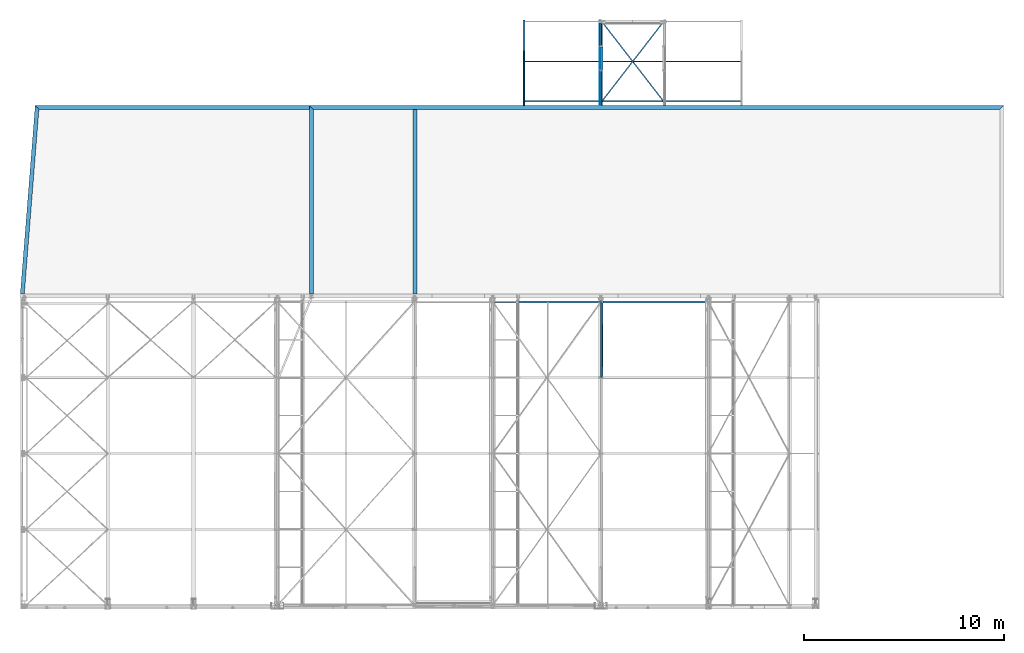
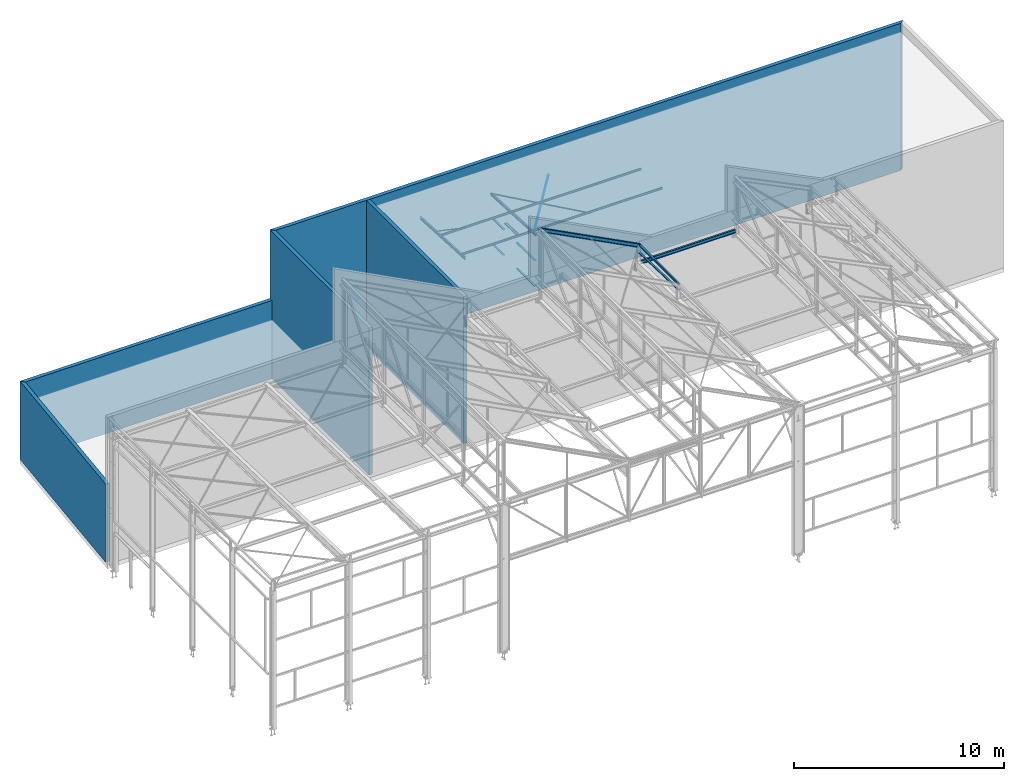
# One storey, part 34 of 123: 20 beams, 2 members, 22 elements without a shape of their own.
"""IFC2X3 building model written with IfcOpenShell, lengths in millimetres."""

import ifcopenshell
import ifcopenshell.guid

model = None  # the IFC model being written
_history = None  # IfcOwnerHistory: only IFC2X3 demands one
_inside = {}  # id of a spatial element -> (the spatial element, [elements in it])
_under = {}  # id of a project, library or spatial element -> (it, [spatial elements below it])
_declared = {}  # id of a project -> (the project, [libraries it declares])
_typed = {}  # id of a type object -> (the type object, [elements of that type])
_made_of = {}  # id of a material, layer set ... -> (it, [elements and type objects made of it])


def new_model(schema):
    """Start an empty IFC model of exactly this schema.

    Asked for "IFC4X3", IfcOpenShell would pick the latest addendum, in which some entities
    have other attributes; the version numbers below select the first issue.
    IFC2X3 requires an IfcOwnerHistory on every rooted entity: one is made here for all.
    """
    global model, _history
    if schema == "IFC4X3":
        model = ifcopenshell.file(schema_version=(4, 3, 0, 0))
    else:
        model = ifcopenshell.file(schema=schema)
    _inside.clear()
    _under.clear()
    _declared.clear()
    _typed.clear()
    _made_of.clear()
    _history = None
    if model.schema == "IFC2X3":
        org = make("IfcOrganization", Name="unknown")
        user = make(
            "IfcPersonAndOrganization",
            ThePerson=make("IfcPerson", FamilyName="unknown"),
            TheOrganization=org,
        )
        app = make(
            "IfcApplication",
            ApplicationDeveloper=org,
            Version="unknown",
            ApplicationFullName="unknown",
            ApplicationIdentifier="unknown",
        )
        _history = make(
            "IfcOwnerHistory",
            OwningUser=user,
            OwningApplication=app,
            ChangeAction="ADDED",
            CreationDate=0,
        )
    return model


def make(cls, **values):
    """One entity of the class cls with the attributes given. An attribute that is None is left unset."""
    return model.create_entity(
        cls, **{name: value for name, value in values.items() if value is not None}
    )


def rooted(cls, **values):
    """An entity with a GlobalId (a new one), such as an element, a storey or a relation."""
    return make(cls, GlobalId=ifcopenshell.guid.new(), OwnerHistory=_history, **values)


def si_unit(unit_type, name, prefix=None):
    """IfcSIUnit, for example si_unit("LENGTHUNIT", "METRE", prefix="MILLI")."""
    return make("IfcSIUnit", UnitType=unit_type, Prefix=prefix, Name=name)


def assignment(units):
    """IfcUnitAssignment: the units of a project."""
    return None if units is None else make("IfcUnitAssignment", Units=units)


def point(xyz):
    """IfcCartesianPoint."""
    return None if xyz is None else make("IfcCartesianPoint", Coordinates=xyz)


def direction(xyz):
    """IfcDirection."""
    return None if xyz is None else make("IfcDirection", DirectionRatios=xyz)


def frame(location, z_axis=None, x_axis=None):
    """IfcAxis2Placement3D, a coordinate frame: its origin and axes. An axis left out is left unset."""
    return make(
        "IfcAxis2Placement3D",
        Location=point(location),
        Axis=direction(z_axis),
        RefDirection=direction(x_axis),
    )


def frame_2d(location, x_axis=None):
    """IfcAxis2Placement2D, a coordinate frame in the plane: its origin and x axis."""
    return make(
        "IfcAxis2Placement2D", Location=point(location), RefDirection=direction(x_axis)
    )


def origin_with_axes():
    """The frame at (0, 0, 0) with the z axis (0, 0, 1) and the x axis (1, 0, 0) written out."""
    return frame((0.0, 0.0, 0.0), z_axis=(0.0, 0.0, 1.0), x_axis=(1.0, 0.0, 0.0))


def origin_2d_with_axis():
    """The frame at (0, 0) in the plane with the x axis (1, 0) written out."""
    return frame_2d((0.0, 0.0), x_axis=(1.0, 0.0))


def place(relative_to, where):
    """IfcLocalPlacement: puts the frame where relative to a parent placement (None: the world)."""
    return make(
        "IfcLocalPlacement", PlacementRelTo=relative_to, RelativePlacement=where
    )


def context(
    kind, dimensions, precision=None, world=None, true_north=None, identifier=None
):
    """IfcGeometricRepresentationContext, for example the 3D "Model" context."""
    return make(
        "IfcGeometricRepresentationContext",
        ContextIdentifier=identifier,
        ContextType=kind,
        CoordinateSpaceDimension=dimensions,
        Precision=precision,
        WorldCoordinateSystem=world,
        TrueNorth=true_north,
    )


def subcontext(parent, identifier, kind, view, scale=None):
    """IfcGeometricRepresentationSubContext, for example "Body" below "Model"."""
    return make(
        "IfcGeometricRepresentationSubContext",
        ContextIdentifier=identifier,
        ContextType=kind,
        ParentContext=parent,
        TargetScale=scale,
        TargetView=view,
    )


def project(units=None, contexts=None):
    """IfcProject with its units and contexts."""
    return rooted(
        "IfcProject",
        Name="project",
        RepresentationContexts=contexts,
        UnitsInContext=assignment(units),
    )


def spatial(cls, under=None, at=None, **own):
    """A site, building, storey or space (cls), placed at a placement, below another one or the project."""
    s = rooted(cls, ObjectPlacement=at, **own)
    if under is not None:
        _under.setdefault(under.id(), (under, []))[1].append(s)
    return s


def profile(cls, at=None, kind="AREA", **sizes):
    """A parametric profile (cls). Its sizes go by their IFC names, for example OverallWidth=200.0."""
    return make(cls, ProfileType=kind, Position=at, **sizes)


def rectangle(**sizes):
    """IfcRectangleProfileDef."""
    return profile("IfcRectangleProfileDef", **sizes)


def hollow_rectangle(**sizes):
    """IfcRectangleHollowProfileDef."""
    return profile("IfcRectangleHollowProfileDef", **sizes)


def hollow_circle(**sizes):
    """IfcCircleHollowProfileDef."""
    return profile("IfcCircleHollowProfileDef", **sizes)


def i_section(**sizes):
    """IfcIShapeProfileDef."""
    return profile("IfcIShapeProfileDef", **sizes)


def l_section(**sizes):
    """IfcLShapeProfileDef."""
    return profile("IfcLShapeProfileDef", **sizes)


def u_section(**sizes):
    """IfcUShapeProfileDef."""
    return profile("IfcUShapeProfileDef", **sizes)


def extrude(swept, where, along, depth):
    """IfcExtrudedAreaSolid: the profile swept, set in the frame where, extruded along a direction by depth."""
    return make(
        "IfcExtrudedAreaSolid",
        SweptArea=swept,
        Position=where,
        ExtrudedDirection=direction(along),
        Depth=depth,
    )


def clip(a, b, op="DIFFERENCE"):
    """IfcBooleanClippingResult: the solid a cut by the half space b."""
    return make(
        "IfcBooleanClippingResult", Operator=op, FirstOperand=a, SecondOperand=b
    )


def halfspace(plane, agree):
    """IfcHalfSpaceSolid: all space on one side of the plane z = 0 of the frame plane."""
    return make(
        "IfcHalfSpaceSolid",
        BaseSurface=make("IfcPlane", Position=plane),
        AgreementFlag=agree,
    )


def shape(context_of_items, identifier, shape_type, items):
    """IfcShapeRepresentation: the items that make up one representation, for example the "Body"."""
    return make(
        "IfcShapeRepresentation",
        ContextOfItems=context_of_items,
        RepresentationIdentifier=identifier,
        RepresentationType=shape_type,
        Items=items,
    )


def material(Name=None, Category=None):
    """IfcMaterial."""
    return make("IfcMaterial", Name=Name, Category=Category)


def made_of(thing, what):
    """Note that an element or type object is made of a material, layer set ...; save() writes the relation."""
    if what is not None:
        _made_of.setdefault(what.id(), (what, []))[1].append(thing)
    return thing


def type_object(cls, material=None, **own):
    """A type object (cls), such as IfcWallType, which elements share."""
    return made_of(rooted(cls, **own), material)


def element(
    cls,
    number,
    at=None,
    inside=None,
    cuts=None,
    type_object=None,
    material=None,
    context=None,
    identifier="Body",
    shape_type=None,
    held_by="IfcProductDefinitionShape",
    body=None,
    shapes=None,
    **own,
):
    """One element of the class cls, such as IfcWall. Its Tag is "e" and its number.

    at: its placement. inside: the storey or other place that contains it. cuts: it is an
    opening in that element (IfcRelVoidsElement). A single representation is given by context,
    identifier, shape_type and body (its items); several are given by shapes. held_by: the class
    of the entity that holds the representations. save() writes the other relations.
    """
    e = rooted(cls, Tag="e%d" % number, ObjectPlacement=at, **own)
    if body is not None:
        shapes = [shape(context, identifier, shape_type, body)]
    if shapes is not None:
        e.Representation = make(held_by, Representations=shapes)
    if inside is not None:
        _inside.setdefault(inside.id(), (inside, []))[1].append(e)
    if cuts is not None:
        rooted(
            "IfcRelVoidsElement", RelatingBuildingElement=cuts, RelatedOpeningElement=e
        )
    if type_object is not None:
        _typed.setdefault(type_object.id(), (type_object, []))[1].append(e)
    return made_of(e, material)


def aggregate(whole, parts):
    """IfcRelAggregates: a whole, such as a stair, and the parts it consists of."""
    return rooted("IfcRelAggregates", RelatingObject=whole, RelatedObjects=parts)


def save(model, path):
    """Write the relations noted so far, then the file.

    IfcRelAggregates (storeys below a building ...), IfcRelContainedInSpatialStructure (elements
    in a storey), IfcRelDefinesByType, IfcRelAssociatesMaterial and IfcRelDeclares: one each for
    every whole, place, type object, material and project.
    """
    for whole, parts in _under.values():
        aggregate(whole, parts)
    for where, things in _inside.values():
        rooted(
            "IfcRelContainedInSpatialStructure",
            RelatedElements=things,
            RelatingStructure=where,
        )
    for kind, things in _typed.values():
        rooted("IfcRelDefinesByType", RelatedObjects=things, RelatingType=kind)
    for what, things in _made_of.values():
        rooted("IfcRelAssociatesMaterial", RelatedObjects=things, RelatingMaterial=what)
    for by, libraries in _declared.values():
        rooted("IfcRelDeclares", RelatingContext=by, RelatedDefinitions=libraries)
    model.write(path)


model = new_model("IFC2X3")

# Units and contexts
model_context = context("Model", 3, precision=1e-05, world=origin_with_axes())
body_context = subcontext(model_context, "Body", "Model", "MODEL_VIEW")
ifc_project = project(units=[si_unit("LENGTHUNIT", "METRE", prefix="MILLI"), si_unit("AREAUNIT", "SQUARE_METRE"), si_unit("VOLUMEUNIT", "CUBIC_METRE"), si_unit("MASSUNIT", "GRAM", prefix="KILO"), si_unit("TIMEUNIT", "SECOND"), si_unit("PLANEANGLEUNIT", "RADIAN"), si_unit("SOLIDANGLEUNIT", "STERADIAN"), si_unit("THERMODYNAMICTEMPERATUREUNIT", "DEGREE_CELSIUS"), si_unit("LUMINOUSINTENSITYUNIT", "LUMEN")], contexts=[model_context])

# Site, building, storey
site_placement = place(None, origin_with_axes())
site = spatial("IfcSite", under=ifc_project, at=site_placement, Name="Undefined", CompositionType="ELEMENT")
building_placement = place(site_placement, origin_with_axes())
building = spatial("IfcBuilding", under=site, at=building_placement, Name="Undefined", CompositionType="ELEMENT")
storey_placement = place(building_placement, origin_with_axes())
storey = spatial("IfcBuildingStorey", under=building, at=storey_placement, Name="Undefined", CompositionType="ELEMENT", Elevation=0.0)

# Assembly, beam
assembly_1_placement = place(storey_placement, origin_with_axes())
assembly_1 = element("IfcElementAssembly", 1, at=assembly_1_placement, inside=storey, Name="Steel Assembly", AssemblyPlace="NOTDEFINED", PredefinedType="RIGID_FRAME")
ifc_material_1 = material(Name="STEEL/S235-E24")
beam_type_1 = type_object("IfcBeamType", Name="UPF-100*50*4", PredefinedType="NOTDEFINED")
beam_1_placement = place(assembly_1_placement, frame((28930.0000000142, 11400.0, 8171.98873515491), z_axis=(1.0, 0.0, 0.0), x_axis=(0.0, 0.999506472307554, -0.0314135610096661)))
beam_1 = element("IfcBeam", 2, at=beam_1_placement, type_object=beam_type_1, material=ifc_material_1, Name="LISSE CONTREBARDAGE", ObjectType="UPF-100*50*4", context=body_context, shape_type="Clipping", body=[
    clip(extrude(u_section(Depth=100.0, FlangeWidth=50.0, WebThickness=4.0, FlangeThickness=4.0, at=origin_2d_with_axis()), frame((3991.97014790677, 0.0, 0.0), z_axis=(-1.0, 0.0, 0.0), x_axis=(0.0, -1.0, 0.0)), (0.0, 0.0, 1.0), 3992.0), halfspace(frame((3962.74106203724, -25.0, -50.0), z_axis=(0.999506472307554, 0.0314135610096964, 0.0), x_axis=(0.0, 0.0, 1.0)), False)),
])
aggregate(assembly_1, [beam_1])

assembly_2_placement = place(storey_placement, origin_with_axes())
assembly_2 = element("IfcElementAssembly", 3, at=assembly_2_placement, inside=storey, Name="Steel Assembly", AssemblyPlace="NOTDEFINED", PredefinedType="RIGID_FRAME")
beam_2_placement = place(assembly_2_placement, frame((28890.0000311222, 29160.0000217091, 1625.0), z_axis=(-1.0, 0.0, 0.0), x_axis=(0.0, -1.0, 0.0)))
beam_2 = element("IfcBeam", 4, at=beam_2_placement, type_object=beam_type_1, material=ifc_material_1, Name="LISSE", ObjectType="UPF-100*50*4", context=body_context, shape_type="SweptSolid", body=[
    extrude(u_section(Depth=100.0, FlangeWidth=50.0, WebThickness=4.0, FlangeThickness=4.0, at=origin_2d_with_axis()), frame((1140.00004341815, 0.0, 0.0), z_axis=(-1.0, 0.0, 0.0), x_axis=(0.0, -1.0, 0.0)), (0.0, 0.0, 1.0), 1140.0),
])
aggregate(assembly_2, [beam_2])

assembly_3_placement = place(storey_placement, origin_with_axes())
assembly_3 = element("IfcElementAssembly", 5, at=assembly_3_placement, inside=storey, Name="Steel Assembly", AssemblyPlace="NOTDEFINED", PredefinedType="RIGID_FRAME")
beam_3_placement = place(assembly_3_placement, frame((28890.0000311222, 26790.0000217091, 1625.0), z_axis=(-1.0, 0.0, 0.0), x_axis=(0.0, -1.0, 0.0)))
beam_3 = element("IfcBeam", 6, at=beam_3_placement, type_object=beam_type_1, material=ifc_material_1, Name="LISSE", ObjectType="UPF-100*50*4", context=body_context, shape_type="SweptSolid", body=[
    extrude(u_section(Depth=100.0, FlangeWidth=50.0, WebThickness=4.0, FlangeThickness=4.0, at=origin_2d_with_axis()), frame((1750.00002170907, 0.0, 0.0), z_axis=(-1.0, 0.0, 0.0), x_axis=(0.0, -1.0, 0.0)), (0.0, 0.0, 1.0), 1750.0),
])
aggregate(assembly_3, [beam_3])

assembly_4_placement = place(storey_placement, origin_with_axes())
assembly_4 = element("IfcElementAssembly", 7, at=assembly_4_placement, inside=storey, Name="Steel Assembly", AssemblyPlace="NOTDEFINED", PredefinedType="RIGID_FRAME")
beam_4_placement = place(assembly_4_placement, frame((28890.0000311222, 29160.0000217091, 124.999999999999), z_axis=(-1.0, 0.0, 0.0), x_axis=(0.0, -1.0, 0.0)))
beam_4 = element("IfcBeam", 8, at=beam_4_placement, type_object=beam_type_1, material=ifc_material_1, Name="LISSE", ObjectType="UPF-100*50*4", context=body_context, shape_type="SweptSolid", body=[
    extrude(u_section(Depth=100.0, FlangeWidth=50.0, WebThickness=4.0, FlangeThickness=4.0, at=origin_2d_with_axis()), frame((1140.00004341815, 0.0, 0.0), z_axis=(-1.0, 0.0, 0.0), x_axis=(0.0, -1.0, 0.0)), (0.0, 0.0, 1.0), 1140.0),
])
aggregate(assembly_4, [beam_4])

assembly_5_placement = place(storey_placement, origin_with_axes())
assembly_5 = element("IfcElementAssembly", 9, at=assembly_5_placement, inside=storey, Name="Steel Assembly", AssemblyPlace="NOTDEFINED", PredefinedType="RIGID_FRAME")
beam_5_placement = place(assembly_5_placement, frame((28890.0000311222, 26790.0000217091, 124.999999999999), z_axis=(-1.0, 0.0, 0.0), x_axis=(0.0, -1.0, 0.0)))
beam_5 = element("IfcBeam", 10, at=beam_5_placement, type_object=beam_type_1, material=ifc_material_1, Name="LISSE", ObjectType="UPF-100*50*4", context=body_context, shape_type="SweptSolid", body=[
    extrude(u_section(Depth=100.0, FlangeWidth=50.0, WebThickness=4.0, FlangeThickness=4.0, at=origin_2d_with_axis()), frame((1750.00002170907, 0.0, 0.0), z_axis=(-1.0, 0.0, 0.0), x_axis=(0.0, -1.0, 0.0)), (0.0, 0.0, 1.0), 1750.0),
])
aggregate(assembly_5, [beam_5])

assembly_6_placement = place(storey_placement, origin_with_axes())
assembly_6 = element("IfcElementAssembly", 11, at=assembly_6_placement, inside=storey, Name="Steel Assembly", AssemblyPlace="NOTDEFINED", PredefinedType="RIGID_FRAME")
beam_type_2 = type_object("IfcBeamType", Name="TUBE-C-100*100*4", PredefinedType="NOTDEFINED")
beam_6_placement = place(assembly_6_placement, frame((28929.9999999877, 11455.0, 8500.0), z_axis=(0.0, 0.0, 1.0), x_axis=(0.0, 1.0, 0.0)))
beam_6 = element("IfcBeam", 12, at=beam_6_placement, type_object=beam_type_2, material=ifc_material_1, Name="LISSE ACROTERE", ObjectType="TUBE-C-100*100*4", context=body_context, shape_type="SweptSolid", body=[
    extrude(hollow_rectangle(XDim=100.0, YDim=100.0, WallThickness=4.0, InnerFilletRadius=4.0, OuterFilletRadius=8.0, at=origin_2d_with_axis()), frame((3690.0, 0.0, 0.0), z_axis=(-1.0, 0.0, 0.0), x_axis=(0.0, -1.0, 0.0)), (0.0, 0.0, 1.0), 3690.0),
])
aggregate(assembly_6, [beam_6])

assembly_7_placement = place(storey_placement, origin_with_axes())
assembly_7 = element("IfcElementAssembly", 13, at=assembly_7_placement, inside=storey, Name="POUTRE", AssemblyPlace="NOTDEFINED", PredefinedType="REINFORCEMENT_UNIT")
ifc_material_2 = material(Name="CONCRETE/C25/30")
beam_type_3 = type_object("IfcBeamType", Name="8550*200", PredefinedType="NOTDEFINED")
beam_7_placement = place(assembly_7_placement, frame((19579.9999999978, 15589.9999107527, 4275.0), z_axis=(0.0, 0.0, 1.0), x_axis=(0.0, 1.0, 0.0)))
beam_7 = element("IfcBeam", 14, at=beam_7_placement, type_object=beam_type_3, material=ifc_material_2, Name="POUTRE", ObjectType="8550*200", context=body_context, shape_type="SweptSolid", body=[
    extrude(rectangle(XDim=200.0, YDim=8550.0, at=origin_2d_with_axis()), frame((9250.00007595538, 0.0, 0.0), z_axis=(-1.0, 0.0, 0.0), x_axis=(0.0, -1.0, 0.0)), (0.0, 0.0, 1.0), 9250.0),
])
aggregate(assembly_7, [beam_7])

assembly_8_placement = place(storey_placement, origin_with_axes())
assembly_8 = element("IfcElementAssembly", 15, at=assembly_8_placement, inside=storey, Name="POUTRE", AssemblyPlace="NOTDEFINED", PredefinedType="REINFORCEMENT_UNIT")
beam_8_placement = place(assembly_8_placement, frame((14379.9999999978, 15589.9999107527, 4275.0), z_axis=(0.0, 0.0, 1.0), x_axis=(0.0, 1.0, 0.0)))
beam_8 = element("IfcBeam", 16, at=beam_8_placement, type_object=beam_type_3, material=ifc_material_2, Name="POUTRE", ObjectType="8550*200", context=body_context, shape_type="Clipping", body=[
    clip(extrude(rectangle(XDim=200.0, YDim=8550.0, at=origin_2d_with_axis()), frame((9451.00008924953, 0.0, 0.0), z_axis=(-1.0, 0.0, 0.0), x_axis=(0.0, -1.0, 0.0)), (0.0, 0.0, 1.0), 9451.0), halfspace(frame((9450.00008924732, 99.9999999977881, -4275.0), z_axis=(-0.707106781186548, 0.707106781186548, 0.0), x_axis=(0.0, 0.0, 1.0)), True)),
])
aggregate(assembly_8, [beam_8])

assembly_9_placement = place(storey_placement, origin_with_axes())
assembly_9 = element("IfcElementAssembly", 17, at=assembly_9_placement, inside=storey, Name="POUTRE", AssemblyPlace="NOTDEFINED", PredefinedType="REINFORCEMENT_UNIT")
beam_9_placement = place(assembly_9_placement, frame((49079.9999999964, 24939.9999999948, 4275.0), z_axis=(0.0, 0.0, 1.0), x_axis=(-1.0, 0.0, 0.0)))
beam_9 = element("IfcBeam", 18, at=beam_9_placement, type_object=beam_type_3, material=ifc_material_2, Name="POUTRE", ObjectType="8550*200", context=body_context, shape_type="Clipping", body=[
    clip(clip(extrude(rectangle(XDim=200.0, YDim=8550.0, at=origin_2d_with_axis()), frame((34901.9999999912, 0.0, 0.0), z_axis=(-1.0, 0.0, 0.0), x_axis=(0.0, -1.0, 0.0)), (0.0, 0.0, 1.0), 35004.0), halfspace(frame((34799.9999999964, -100.00000000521, -4275.0), z_axis=(0.707106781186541, 0.707106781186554, 0.0), x_axis=(0.0, 0.0, 1.0)), False)), halfspace(frame((0.000287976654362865, -100.00000000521, -4275.0), z_axis=(0.707106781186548, -0.707106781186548, 0.0), x_axis=(0.0, 0.0, 1.0)), True)),
])
aggregate(assembly_9, [beam_9])

assembly_10_placement = place(storey_placement, origin_with_axes())
assembly_10 = element("IfcElementAssembly", 19, at=assembly_10_placement, inside=storey, Name="POUTRE", AssemblyPlace="NOTDEFINED", PredefinedType="REINFORCEMENT_UNIT")
beam_type_4 = type_object("IfcBeamType", Name="4550*200", PredefinedType="NOTDEFINED")
beam_10_placement = place(assembly_10_placement, frame((14279.99999393, 24939.9999999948, 2275.0), z_axis=(0.0, 0.0, 1.0), x_axis=(-1.0, 0.0, 0.0)))
beam_10 = element("IfcBeam", 20, at=beam_10_placement, type_object=beam_type_4, material=ifc_material_2, Name="POUTRE", ObjectType="4550*200", context=body_context, shape_type="Clipping", body=[
    clip(extrude(rectangle(XDim=200.0, YDim=4550.0, at=origin_2d_with_axis()), frame((13733.3214255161, 0.0, 0.0), z_axis=(-1.0, 0.0, 0.0), x_axis=(0.0, -1.0, 0.0)), (0.0, 0.0, 1.0), 13733.3), halfspace(frame((13547.6025489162, 99.9999999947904, -2275.0), z_axis=(-0.734474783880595, -0.67863597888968, 0.0), x_axis=(0.0, 0.0, 1.0)), True)),
])
aggregate(assembly_10, [beam_10])

assembly_11_placement = place(storey_placement, origin_with_axes())
assembly_11 = element("IfcElementAssembly", 21, at=assembly_11_placement, inside=storey, Name="POUTRE", AssemblyPlace="NOTDEFINED", PredefinedType="REINFORCEMENT_UNIT")
beam_11_placement = place(assembly_11_placement, frame((647.890635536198, 25039.6882027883, 2275.0), z_axis=(0.0, 0.0, 1.0), x_axis=(-0.0789064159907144, -0.996882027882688, 0.0)))
beam_11 = element("IfcBeam", 22, at=beam_11_placement, type_object=beam_type_4, material=ifc_material_2, Name="POUTRE", ObjectType="4550*200", context=body_context, shape_type="Clipping", body=[
    clip(clip(extrude(rectangle(XDim=200.0, YDim=4550.0, at=origin_2d_with_axis()), frame((9595.28744060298, 0.0, 4.54747350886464e-13), z_axis=(-1.0, 0.0, 0.0), x_axis=(0.0, -1.0, 0.0)), (0.0, 0.0, 1.0), 9611.3), halfspace(frame((9484.00869593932, -60.1930580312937, -2275.0), z_axis=(0.996882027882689, 0.0789064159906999, 0.0), x_axis=(0.0, 0.0, 1.0)), False)), halfspace(frame((7.60254892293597, -100.000000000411, -2275.0), z_axis=(0.734474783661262, -0.678635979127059, 0.0), x_axis=(0.0, 0.0, 1.0)), True)),
])
aggregate(assembly_11, [beam_11])

assembly_12_placement = place(storey_placement, origin_with_axes())
assembly_12 = element("IfcElementAssembly", 23, at=assembly_12_placement, inside=storey, Name="Steel Assembly", AssemblyPlace="NOTDEFINED", PredefinedType="RIGID_FRAME")
beam_type_5 = type_object("IfcBeamType", Name="UPF-150*50*5", PredefinedType="NOTDEFINED")
beam_12_placement = place(assembly_12_placement, frame((28915.0000311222, 27969.9999782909, 2065.0), z_axis=(1.0, 0.0, 0.0), x_axis=(0.0, -1.0, 0.0)))
beam_12 = element("IfcBeam", 24, at=beam_12_placement, type_object=beam_type_5, material=ifc_material_1, Name="LINTEAU", ObjectType="UPF-150*50*5", context=body_context, shape_type="SweptSolid", body=[
    extrude(u_section(Depth=150.0, FlangeWidth=50.0, WebThickness=5.0, FlangeThickness=5.0, at=origin_2d_with_axis()), frame((1129.99995658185, 0.0, 0.0), z_axis=(-1.0, 0.0, 0.0), x_axis=(0.0, -1.0, 0.0)), (0.0, 0.0, 1.0), 1130.0),
])
aggregate(assembly_12, [beam_12])

assembly_13_placement = place(storey_placement, origin_with_axes())
assembly_13 = element("IfcElementAssembly", 25, at=assembly_13_placement, inside=storey, Name="Steel Assembly", AssemblyPlace="NOTDEFINED", PredefinedType="RIGID_FRAME")
beam_type_6 = type_object("IfcBeamType", Name="L40*4", PredefinedType="NOTDEFINED")
beam_13_placement = place(assembly_13_placement, frame((28860.0000311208, 29270.9099744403, 2958.35348402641), z_axis=(0.0, -0.052309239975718, -0.99863093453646), x_axis=(0.0, -0.99863093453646, 0.0523092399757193)))
beam_13 = element("IfcBeam", 26, at=beam_13_placement, type_object=beam_type_6, material=ifc_material_1, Name="STABILITE CVT", ObjectType="L40*4", context=body_context, shape_type="SweptSolid", body=[
    extrude(l_section(Depth=40.0, Width=40.0, Thickness=4.0, FilletRadius=6.0, EdgeRadius=3.0, at=origin_2d_with_axis()), frame((4200.00376909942, 0.0, -2.91433805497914e-14), z_axis=(-1.0, 0.0, 0.0), x_axis=(0.0, -1.0, 0.0)), (0.0, 0.0, 1.0), 4200.0),
])
aggregate(assembly_13, [beam_13])

assembly_14_placement = place(storey_placement, origin_with_axes())
assembly_14 = element("IfcElementAssembly", 27, at=assembly_14_placement, inside=storey, Name="Steel Assembly", AssemblyPlace="NOTDEFINED", PredefinedType="RIGID_FRAME")
beam_14_placement = place(assembly_14_placement, frame((28929.999969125, 29238.9538122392, 2960.02737972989), z_axis=(0.0, -0.052309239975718, -0.99863093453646), x_axis=(0.612047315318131, -0.789738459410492, 0.0413672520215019)))
beam_14 = element("IfcBeam", 28, at=beam_14_placement, type_object=beam_type_6, material=ifc_material_1, Name="STABILITE CVT", ObjectType="L40*4", context=body_context, shape_type="SweptSolid", body=[
    extrude(l_section(Depth=40.0, Width=40.0, Thickness=4.0, FilletRadius=6.0, EdgeRadius=3.0, at=origin_2d_with_axis()), frame((5064.96794026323, 4.2833304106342e-13, 0.0), z_axis=(-1.0, 0.0, 0.0), x_axis=(0.0, -1.0, 0.0)), (0.0, 0.0, 1.0), 5065.0),
])
aggregate(assembly_14, [beam_14])

assembly_15_placement = place(storey_placement, origin_with_axes())
assembly_15 = element("IfcElementAssembly", 29, at=assembly_15_placement, inside=storey, Name="Steel Assembly", AssemblyPlace="NOTDEFINED", PredefinedType="RIGID_FRAME")
beam_15_placement = place(assembly_15_placement, frame((32029.9999708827, 29238.953833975, 2960.02737979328), z_axis=(0.0, -0.052309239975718, -0.99863093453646), x_axis=(-0.612047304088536, -0.789738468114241, 0.0413672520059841)))
beam_15 = element("IfcBeam", 30, at=beam_15_placement, type_object=beam_type_6, material=ifc_material_1, Name="STABILITE CVT", ObjectType="L40*4", context=body_context, shape_type="SweptSolid", body=[
    extrude(l_section(Depth=40.0, Width=40.0, Thickness=4.0, FilletRadius=6.0, EdgeRadius=3.0, at=origin_2d_with_axis()), frame((5064.96794026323, 4.2833304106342e-13, 0.0), z_axis=(-1.0, 0.0, 0.0), x_axis=(0.0, -1.0, 0.0)), (0.0, 0.0, 1.0), 5065.0),
])
aggregate(assembly_15, [beam_15])

# Assembly, member
assembly_16_placement = place(storey_placement, origin_with_axes())
assembly_16 = element("IfcElementAssembly", 31, at=assembly_16_placement, inside=storey, Name="Steel Assembly", AssemblyPlace="NOTDEFINED", PredefinedType="RIGID_FRAME")
member_type_1 = type_object("IfcMemberType", Name="TUBE-60.3*3.2", PredefinedType="NOTDEFINED")
member_1_placement = place(assembly_16_placement, frame((25029.999970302, 25039.9999999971, 4900.0), z_axis=(-1.0, 0.0, 0.0), x_axis=(0.0, 0.826153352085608, -0.563445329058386)))
member_1 = element("IfcMember", 32, at=member_1_placement, type_object=member_type_1, material=ifc_material_1, Name="BUTON", ObjectType="TUBE-60.3*3.2", context=body_context, shape_type="SweptSolid", body=[
    extrude(hollow_circle(Radius=30.14999962, WallThickness=3.200000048, at=origin_2d_with_axis()), frame((3268.15837953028, 0.0, 0.0), z_axis=(-1.0, 0.0, 0.0), x_axis=(0.0, -1.0, 0.0)), (0.0, 0.0, 1.0), 3268.2),
])
aggregate(assembly_16, [member_1])

# Assembly, beam
assembly_17_placement = place(storey_placement, origin_with_axes())
assembly_17 = element("IfcElementAssembly", 33, at=assembly_17_placement, inside=storey, Name="Steel Assembly", AssemblyPlace="NOTDEFINED", PredefinedType="RIGID_FRAME")
ifc_material_3 = material(Name="STEEL/S275-E28")
beam_type_7 = type_object("IfcBeamType", Name="IPE160", PredefinedType="NOTDEFINED")
beam_16_placement = place(assembly_17_placement, frame((25030.0000002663, 25035.8151109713, 3120.10952522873), z_axis=(0.0, 0.0523092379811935, 0.998630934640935), x_axis=(0.0, 0.998630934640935, -0.0523092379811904)))
beam_16 = element("IfcBeam", 34, at=beam_16_placement, type_object=beam_type_7, material=ifc_material_3, Name="TRAVERSE", ObjectType="IPE160", context=body_context, shape_type="Clipping", body=[
    clip(clip(extrude(i_section(OverallWidth=82.0, OverallDepth=160.0, WebThickness=5.0, FlangeThickness=7.400000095, FilletRadius=9.0, at=origin_2d_with_axis()), frame((4298.52302074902, 3.63797880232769e-12, 0.0), z_axis=(-1.0, 0.0, 0.0), x_axis=(0.0, -1.0, 0.0)), (0.0, 0.0, 1.0), 4302.8), halfspace(frame((4294.24873399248, 1.79522248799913e-06, -79.9999999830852), z_axis=(-0.998630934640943, -9.58451038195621e-12, -0.0523092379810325), x_axis=(0.0, -1.0, 0.0)), True)), halfspace(frame((5.37601310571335, -4.00323187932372e-08, -22.6329802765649), z_axis=(-0.998630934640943, -9.58451038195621e-12, -0.0523092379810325), x_axis=(0.0, -1.0, 0.0)), False)),
])
aggregate(assembly_17, [beam_16])

assembly_18_placement = place(storey_placement, origin_with_axes())
assembly_18 = element("IfcElementAssembly", 35, at=assembly_18_placement, inside=storey, Name="Steel Assembly", AssemblyPlace="NOTDEFINED", PredefinedType="RIGID_FRAME")
beam_17_placement = place(assembly_18_placement, frame((28930.0000002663, 25035.8151109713, 3120.10952522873), z_axis=(0.0, 0.0523092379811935, 0.998630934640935), x_axis=(0.0, 0.998630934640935, -0.0523092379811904)))
beam_17 = element("IfcBeam", 36, at=beam_17_placement, type_object=beam_type_7, material=ifc_material_3, Name="TRAVERSE", ObjectType="IPE160", context=body_context, shape_type="Clipping", body=[
    clip(clip(extrude(i_section(OverallWidth=82.0, OverallDepth=160.0, WebThickness=5.0, FlangeThickness=7.400000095, FilletRadius=9.0, at=origin_2d_with_axis()), frame((4298.52302074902, 3.63797880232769e-12, 0.0), z_axis=(-1.0, 0.0, 0.0), x_axis=(0.0, -1.0, 0.0)), (0.0, 0.0, 1.0), 4302.8), halfspace(frame((4294.24873399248, 1.79522248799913e-06, -79.9999999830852), z_axis=(-0.998630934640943, -9.58451038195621e-12, -0.0523092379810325), x_axis=(0.0, -1.0, 0.0)), True)), halfspace(frame((5.37601310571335, -4.00323187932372e-08, -22.6329802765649), z_axis=(-0.998630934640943, -9.58451038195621e-12, -0.0523092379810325), x_axis=(0.0, -1.0, 0.0)), False)),
])
aggregate(assembly_18, [beam_17])

assembly_19_placement = place(storey_placement, origin_with_axes())
assembly_19 = element("IfcElementAssembly", 37, at=assembly_19_placement, inside=storey, Name="Steel Assembly", AssemblyPlace="NOTDEFINED", PredefinedType="RIGID_FRAME")
beam_type_8 = type_object("IfcBeamType", Name="IPE120", PredefinedType="NOTDEFINED")
beam_18_placement = place(assembly_19_placement, frame((24979.9999987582, 25243.1385236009, 3249.44165811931), z_axis=(0.0, 0.0523092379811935, 0.998630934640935), x_axis=(1.0, 0.0, 0.0)))
beam_18 = element("IfcBeam", 38, at=beam_18_placement, type_object=beam_type_8, material=ifc_material_3, Name="PANNE", ObjectType="IPE120", context=body_context, shape_type="SweptSolid", body=[
    extrude(i_section(OverallWidth=64.0, OverallDepth=120.0, WebThickness=4.400000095, FlangeThickness=6.300000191, FilletRadius=7.0, at=origin_2d_with_axis()), frame((11000.0, -9.09898673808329e-21, 0.0), z_axis=(-1.0, 0.0, 0.0), x_axis=(0.0, -1.0, 0.0)), (0.0, 0.0, 1.0), 11000.0),
])
aggregate(assembly_19, [beam_18])

assembly_20_placement = place(storey_placement, origin_with_axes())
assembly_20 = element("IfcElementAssembly", 39, at=assembly_20_placement, inside=storey, Name="Steel Assembly", AssemblyPlace="NOTDEFINED", PredefinedType="RIGID_FRAME")
beam_19_placement = place(assembly_20_placement, frame((24979.9999838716, 27243.1385236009, 3144.67975626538), z_axis=(0.0, 0.0523092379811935, 0.998630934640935), x_axis=(1.0, 0.0, 0.0)))
beam_19 = element("IfcBeam", 40, at=beam_19_placement, type_object=beam_type_8, material=ifc_material_3, Name="PANNE", ObjectType="IPE120", context=body_context, shape_type="SweptSolid", body=[
    extrude(i_section(OverallWidth=64.0, OverallDepth=120.0, WebThickness=4.400000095, FlangeThickness=6.300000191, FilletRadius=7.0, at=origin_2d_with_axis()), frame((11000.0, -9.09898673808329e-21, 0.0), z_axis=(-1.0, 0.0, 0.0), x_axis=(0.0, -1.0, 0.0)), (0.0, 0.0, 1.0), 11000.0),
])
aggregate(assembly_20, [beam_19])

# Assembly, member
assembly_21_placement = place(storey_placement, origin_with_axes())
assembly_21 = element("IfcElementAssembly", 41, at=assembly_21_placement, inside=storey, Name="Steel Assembly", AssemblyPlace="NOTDEFINED", PredefinedType="RIGID_FRAME")
member_type_2 = type_object("IfcMemberType", Name="IPE200", PredefinedType="NOTDEFINED")
member_2_placement = place(assembly_21_placement, frame((23493.9906758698, 15199.9999999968, 11280.2129396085), z_axis=(0.46009324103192, -7.00000004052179e-09, 0.887870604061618), x_axis=(0.887870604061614, 0.0, -0.460093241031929)))
member_2 = element("IfcMember", 42, at=member_2_placement, type_object=member_type_2, material=ifc_material_3, Name="TRAVERSE SHED", ObjectType="IPE200", context=body_context, shape_type="Clipping", body=[
    clip(clip(extrude(i_section(OverallWidth=100.0, OverallDepth=200.0, WebThickness=5.599999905, FlangeThickness=8.5, FilletRadius=12.0, at=origin_2d_with_axis()), frame((6236.48041099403, 3.63797880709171e-12, 3.63797880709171e-12), z_axis=(-1.0, 0.0, 0.0), x_axis=(0.0, -1.0, 0.0)), (0.0, 0.0, 1.0), 6354.9), halfspace(frame((6005.40058860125, -11399.9999999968, -100.0), z_axis=(0.854427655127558, 0.0, -0.519570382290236), x_axis=(0.0, -1.0, 0.0)), False)), halfspace(frame((0.0, 0.0, 100.0), z_axis=(-0.887870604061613, 0.0, -0.460093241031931), x_axis=(0.0, -1.0, 0.0)), False)),
])
aggregate(assembly_21, [member_2])

# Assembly, beam
assembly_22_placement = place(storey_placement, origin_with_axes())
assembly_22 = element("IfcElementAssembly", 43, at=assembly_22_placement, inside=storey, Name="Steel Assembly", AssemblyPlace="NOTDEFINED", PredefinedType="RIGID_FRAME")
beam_type_9 = type_object("IfcBeamType", Name="IPE200", PredefinedType="NOTDEFINED")
beam_20_placement = place(assembly_22_placement, frame((28994.9999991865, 15199.9999999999, 7472.27131363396), z_axis=(0.0, 0.0314107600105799, 0.999506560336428), x_axis=(1.0, 0.0, 0.0)))
beam_20 = element("IfcBeam", 44, at=beam_20_placement, type_object=beam_type_9, material=ifc_material_3, Name="PANNE", ObjectType="IPE200", context=body_context, shape_type="SweptSolid", body=[
    extrude(i_section(OverallWidth=100.0, OverallDepth=200.0, WebThickness=5.599999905, FlangeThickness=8.5, FilletRadius=12.0, at=origin_2d_with_axis()), frame((5209.99999999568, 0.0, 0.0), z_axis=(-1.0, 0.0, 0.0), x_axis=(0.0, -1.0, 0.0)), (0.0, 0.0, 1.0), 5210.0),
])
aggregate(assembly_22, [beam_20])

save(model, "model.ifc")
